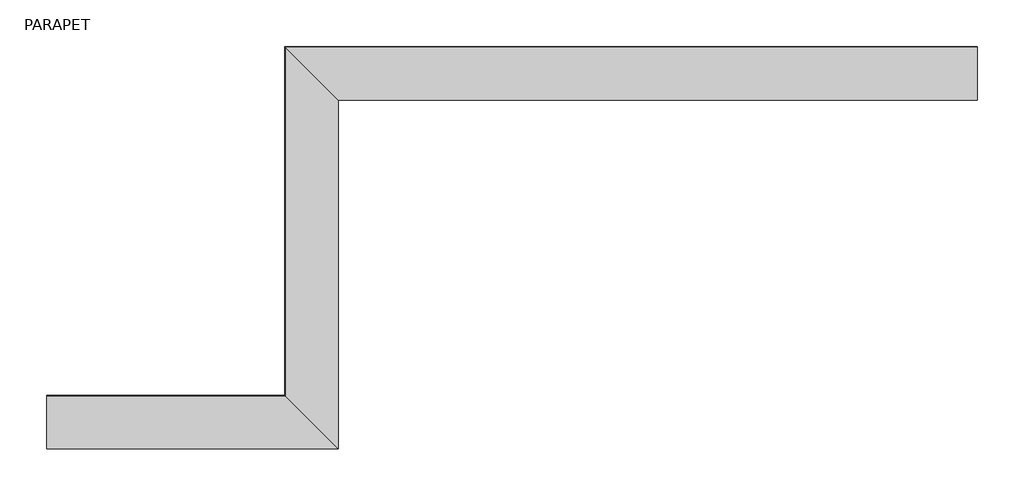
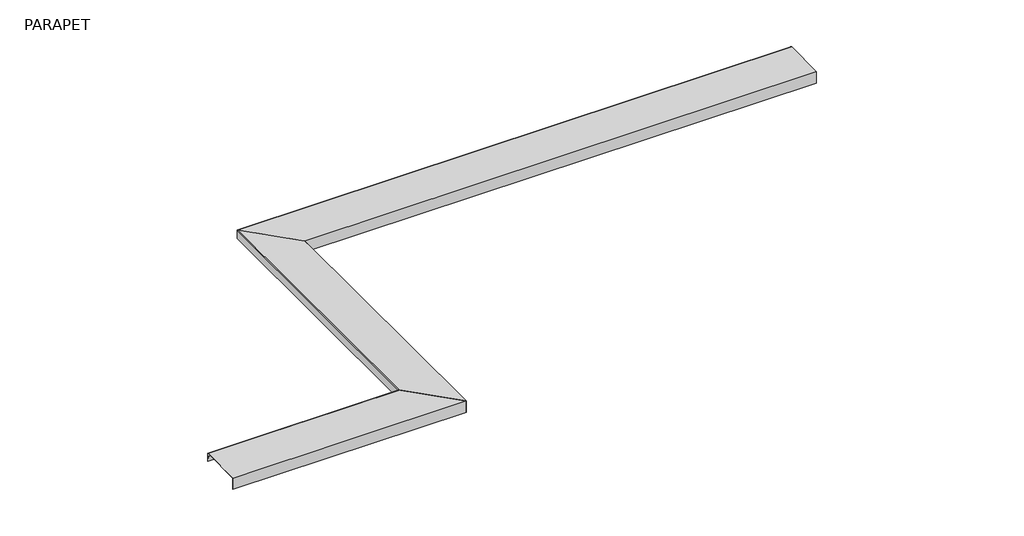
# One storey: 1 proxy.
"""IFC4 building model written with IfcOpenShell, lengths in millimetres."""

from ifc_helpers import new_model, si_unit, frame, origin, place, context, project, spatial, polyline, circle_curve, ellipse_curve, element, save
from ifc_brep_helpers import plane_surface, cylinder_surface, revolved_surface, advanced_brep

model = new_model("IFC4")

# Units and contexts
model_context = context("Model", 3, world=origin())
ifc_project = project(units=[si_unit("LENGTHUNIT", "METRE", prefix="MILLI")], contexts=[model_context])

# Site, building, storey
site = spatial("IfcSite", under=ifc_project)
building = spatial("IfcBuilding", under=site)
storey = spatial("IfcBuildingStorey", under=building, Name="PARAPET", Elevation=38277.5920148)

# Proxy
placement = place(None, origin())
element("IfcBuildingElementProxy", 1, Name="Nineline Parapet Capping 235", ObjectType="Nineline Parapet Capping 235", at=placement, inside=storey, context=model_context, shape_type="AdvancedBrep", body=[
    advanced_brep(
    [(54398.6836337, -3650.6146039, 38279.5924717), (54398.6836337, -3650.6146039, 38232.5920148), (54402.6836337, -3654.6146039, 38265.1694005), (54401.6910875, -3653.6220578, 38265.2912699), (54399.6836337, -3651.6146039, 38248.9418703), (54399.6836337, -3651.6146039, 38279.5924717), (54401.7185385, -3653.6495087, 38281.5921671), (54637.6836337, -3889.6146039, 38277.473381), (54637.6836337, -3889.6146039, 38212.5920148), (54638.6836337, -3890.6146039, 38212.5920148), (54638.6836337, -3890.6146039, 38278.4560783), (54401.7359909, -3653.6669611, 38282.5920148), (57493.6836337, -3650.6146039, 38279.5924717), (57493.6836337, -3653.6669611, 38282.5920148), (57493.6836337, -3890.6146039, 38278.4560783), (57493.6836337, -3890.6146039, 38212.5920148), (57493.6836337, -3889.6146039, 38212.5920148), (57493.6836337, -3889.6146039, 38277.473381), (57493.6836337, -3653.6495087, 38281.5921671), (57493.6836337, -3651.6146039, 38279.5924717), (57493.6836337, -3651.6146039, 38248.9418703), (57493.6836337, -3653.6220578, 38265.2912699), (57493.6836337, -3654.6146039, 38265.1694005), (57493.6836337, -3650.6146039, 38232.5920148)],
    [
        (0, 1),
        (1, 2),
        (2, 3),
        (3, 4),
        (4, 5),
        (5, 6, ellipse_curve(frame((54401.6836337, -3653.6146039, 38279.5924717), z_axis=(0.7071067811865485, 0.7071067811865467, 0.0), x_axis=(0.7071067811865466, -0.7071067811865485, 0.0)), 2.8284271, 2.0)),
        (6, 7),
        (7, 8),
        (8, 9),
        (9, 10),
        (10, 11),
        (11, 0, ellipse_curve(frame((54401.6836337, -3653.6146039, 38279.5924717), z_axis=(-0.7071067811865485, -0.7071067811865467, 0.0), x_axis=(-0.7071067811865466, 0.7071067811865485, 0.0)), 4.2426407, 3.0)),
        (12, 13, circle_curve(frame((57493.6836337, -3653.6146039, 38279.5924717), z_axis=(1.0, 0.0, 0.0), x_axis=(0.0, 1.0, 0.0)), 3.0)),
        (13, 14),
        (14, 15),
        (15, 16),
        (16, 17),
        (17, 18),
        (18, 19, circle_curve(frame((57493.6836337, -3653.6146039, 38279.5924717), z_axis=(-1.0, 0.0, 0.0), x_axis=(0.0, 1.0, 0.0)), 2.0)),
        (19, 20),
        (20, 21),
        (21, 22),
        (22, 23),
        (23, 12),
        (0, 12),
        (23, 1),
        (22, 2),
        (21, 3),
        (20, 4),
        (19, 5),
        (18, 6),
        (17, 7),
        (16, 8),
        (15, 9),
        (14, 10),
        (13, 11),
    ],
    [
        plane_surface(frame((54493.6836337, -3745.6146039, 38582.3920148), z_axis=(-0.7071067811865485, -0.7071067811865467, 0.0), x_axis=(0.7071067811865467, -0.7071067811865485, 0.0))),
        plane_surface(frame((57493.6836337, -3745.6146039, 38118.689529), z_axis=(1.0, 0.0, 0.0), x_axis=(0.0, 1.0, 0.0))),
        plane_surface(frame((54398.6836337, -3650.6146039, 38279.5924717), z_axis=(0.0, 1.0, 0.0), x_axis=(1.0, 0.0, 0.0))),
        plane_surface(frame((54398.6836337, -3650.6146039, 38232.5920148), z_axis=(0.0, -0.9925461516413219, -0.12186934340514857), x_axis=(1.0, 0.0, 0.0))),
        plane_surface(frame((54402.6836337, -3654.6146039, 38265.1694005), z_axis=(0.0, -0.12186934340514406, 0.9925461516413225), x_axis=(1.0, 0.0, 0.0))),
        plane_surface(frame((54401.6910875, -3653.6220578, 38265.2912699), z_axis=(0.0, 0.992546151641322, 0.12186934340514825), x_axis=(1.0, 0.0, 0.0))),
        plane_surface(frame((54399.6836337, -3651.6146039, 38248.9418703), z_axis=(0.0, -1.0, 0.0), x_axis=(1.0, 0.0, 0.0))),
        revolved_surface(polyline([(57493.6836337, -3651.6146039, 38279.5924717), (54399.6836337, -3651.6146039, 38279.5924717)]), (54493.6836337, -3653.6146039, 38279.5924717), (1.0, 0.0, 0.0)),
        plane_surface(frame((54401.7185385, -3653.6495087, 38281.5921671), z_axis=(0.0, 0.017452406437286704, -0.9998476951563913), x_axis=(1.0, 0.0, 0.0))),
        plane_surface(frame((54637.6836337, -3889.6146039, 38277.473381), z_axis=(0.0, 1.0, 0.0), x_axis=(1.0, 0.0, 0.0))),
        plane_surface(frame((54637.6836337, -3889.6146039, 38212.5920148), z_axis=(0.0, 0.0, -1.0), x_axis=(1.0, 0.0, 0.0))),
        plane_surface(frame((54638.6836337, -3890.6146039, 38212.5920148), z_axis=(0.0, -1.0, 0.0), x_axis=(1.0, 0.0, 0.0))),
        plane_surface(frame((54638.6836337, -3890.6146039, 38278.4560783), z_axis=(0.0, -0.017452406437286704, 0.9998476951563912), x_axis=(1.0, 0.0, 0.0))),
        cylinder_surface(frame((54493.6836337, -3653.6146039, 38279.5924717), z_axis=(-1.0, 0.0, 0.0), x_axis=(0.0, 1.0, 0.0)), 3.0),
    ],
    [
        (0, [[1, 2, 3, 4, 5, 6, 7, 8, 9, 10, 11, 12]]),
        (1, [[13, 14, 15, 16, 17, 18, 19, 20, 21, 22, 23, 24]]),
        (2, [[-1, 25, -24, 26]]),
        (3, [[-2, -26, -23, 27]]),
        (4, [[-3, -27, -22, 28]]),
        (5, [[-4, -28, -21, 29]]),
        (6, [[-5, -29, -20, 30]]),
        (7, [[-6, -30, -19, 31]]),
        (8, [[-7, -31, -18, 32]]),
        (9, [[-8, -32, -17, 33]]),
        (10, [[-9, -33, -16, 34]]),
        (11, [[-10, -34, -15, 35]]),
        (12, [[-11, -35, -14, 36]]),
        (13, [[-12, -36, -13, -25]]),
    ],
),
    advanced_brep(
    [(54398.6836337, -3650.6146039, 38279.5924717), (54401.7359909, -3653.6669611, 38282.5920148), (54638.6836337, -3890.6146039, 38278.4560783), (54638.6836337, -3890.6146039, 38212.5920148), (54637.6836337, -3889.6146039, 38212.5920148), (54637.6836337, -3889.6146039, 38277.473381), (54401.7185385, -3653.6495087, 38281.5921671), (54399.6836337, -3651.6146039, 38279.5924717), (54399.6836337, -3651.6146039, 38248.9418703), (54401.6910875, -3653.6220578, 38265.2912699), (54402.6836337, -3654.6146039, 38265.1694005), (54398.6836337, -3650.6146039, 38232.5920148), (54398.6836337, -5210.8489789, 38279.5924717), (54398.6836337, -5210.8489789, 38232.5920148), (54402.6836337, -5214.8489789, 38265.1694005), (54401.6910875, -5213.8564328, 38265.2912699), (54399.6836337, -5211.8489789, 38248.9418703), (54399.6836337, -5211.8489789, 38279.5924717), (54401.7185385, -5213.8838837, 38281.5921671), (54637.6836337, -5449.8489789, 38277.473381), (54637.6836337, -5449.8489789, 38212.5920148), (54638.6836337, -5450.8489789, 38212.5920148), (54638.6836337, -5450.8489789, 38278.4560783), (54401.7359909, -5213.9013361, 38282.5920148)],
    [
        (0, 1, ellipse_curve(frame((54401.6836337, -3653.6146039, 38279.5924717), z_axis=(0.7071067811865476, 0.7071067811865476, 0.0), x_axis=(-0.7071067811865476, 0.7071067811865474, 0.0)), 4.2426407, 3.0)),
        (1, 2),
        (2, 3),
        (3, 4),
        (4, 5),
        (5, 6),
        (6, 7, ellipse_curve(frame((54401.6836337, -3653.6146039, 38279.5924717), z_axis=(-0.7071067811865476, -0.7071067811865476, 0.0), x_axis=(0.7071067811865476, -0.7071067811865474, 0.0)), 2.8284271, 2.0)),
        (7, 8),
        (8, 9),
        (9, 10),
        (10, 11),
        (11, 0),
        (12, 13),
        (13, 14),
        (14, 15),
        (15, 16),
        (16, 17),
        (17, 18, ellipse_curve(frame((54401.6836337, -5213.8489789, 38279.5924717), z_axis=(0.7071067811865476, 0.7071067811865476, 0.0), x_axis=(0.7071067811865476, -0.7071067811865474, 0.0)), 2.8284271, 2.0)),
        (18, 19),
        (19, 20),
        (20, 21),
        (21, 22),
        (22, 23),
        (23, 12, ellipse_curve(frame((54401.6836337, -5213.8489789, 38279.5924717), z_axis=(-0.7071067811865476, -0.7071067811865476, 0.0), x_axis=(-0.7071067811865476, 0.7071067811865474, 0.0)), 4.2426407, 3.0)),
        (0, 12),
        (23, 1),
        (22, 2),
        (21, 3),
        (20, 4),
        (19, 5),
        (18, 6),
        (17, 7),
        (16, 8),
        (15, 9),
        (14, 10),
        (13, 11),
    ],
    [
        plane_surface(frame((54493.6836337, -3745.6146039, 37972.7920148), z_axis=(0.7071067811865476, 0.7071067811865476, 0.0), x_axis=(0.7071067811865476, -0.7071067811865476, 0.0))),
        plane_surface(frame((54493.6836337, -5305.8489789, 38582.3920148), z_axis=(-0.7071067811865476, -0.7071067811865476, 0.0), x_axis=(-0.7071067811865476, 0.7071067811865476, 0.0))),
        cylinder_surface(frame((54401.6836337, -3745.6146039, 38279.5924717), z_axis=(0.0, 1.0, 0.0), x_axis=(-1.0, 0.0, 0.0)), 3.0),
        plane_surface(frame((54401.7359909, -3653.6669611, 38282.5920148), z_axis=(0.017452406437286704, 0.0, 0.9998476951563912), x_axis=(0.0, -1.0, 0.0))),
        plane_surface(frame((54638.6836337, -3890.6146039, 38278.4560783), z_axis=(1.0, 0.0, 0.0), x_axis=(0.0, -1.0, 0.0))),
        plane_surface(frame((54638.6836337, -3890.6146039, 38212.5920148), z_axis=(0.0, 0.0, -1.0), x_axis=(0.0, -1.0, 0.0))),
        plane_surface(frame((54637.6836337, -3889.6146039, 38212.5920148), z_axis=(-1.0, 0.0, 0.0), x_axis=(0.0, -1.0, 0.0))),
        plane_surface(frame((54637.6836337, -3889.6146039, 38277.473381), z_axis=(-0.017452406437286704, 0.0, -0.9998476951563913), x_axis=(0.0, -1.0, 0.0))),
        revolved_surface(polyline([(54399.6836337, -5215.848978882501, 38279.5924717), (54399.6836337, -3651.6146039, 38279.5924717)]), (54401.6836337, -3745.6146039, 38279.5924717), (0.0, -1.0, 0.0)),
        plane_surface(frame((54399.6836337, -3651.6146039, 38279.5924717), z_axis=(1.0, 0.0, 0.0), x_axis=(0.0, -1.0, 0.0))),
        plane_surface(frame((54399.6836337, -3651.6146039, 38248.9418703), z_axis=(-0.992546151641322, 0.0, 0.12186934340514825), x_axis=(0.0, -1.0, 0.0))),
        plane_surface(frame((54401.6910875, -3653.6220578, 38265.2912699), z_axis=(0.12186934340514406, 0.0, 0.9925461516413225), x_axis=(0.0, -1.0, 0.0))),
        plane_surface(frame((54402.6836337, -3654.6146039, 38265.1694005), z_axis=(0.9925461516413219, 0.0, -0.12186934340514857), x_axis=(0.0, -1.0, 0.0))),
        plane_surface(frame((54398.6836337, -3650.6146039, 38232.5920148), z_axis=(-1.0, 0.0, 0.0), x_axis=(0.0, -1.0, 0.0))),
    ],
    [
        (0, [[1, 2, 3, 4, 5, 6, 7, 8, 9, 10, 11, 12]]),
        (1, [[13, 14, 15, 16, 17, 18, 19, 20, 21, 22, 23, 24]]),
        (2, [[-1, 25, -24, 26]]),
        (3, [[-2, -26, -23, 27]]),
        (4, [[-3, -27, -22, 28]]),
        (5, [[-4, -28, -21, 29]]),
        (6, [[-5, -29, -20, 30]]),
        (7, [[-6, -30, -19, 31]]),
        (8, [[-7, -31, -18, 32]]),
        (9, [[-8, -32, -17, 33]]),
        (10, [[-9, -33, -16, 34]]),
        (11, [[-10, -34, -15, 35]]),
        (12, [[-11, -35, -14, 36]]),
        (13, [[-12, -36, -13, -25]]),
    ],
),
    advanced_brep(
    [(54398.6836337, -5210.8489789, 38279.5924717), (54401.7359909, -5213.9013361, 38282.5920148), (54638.6836337, -5450.8489789, 38278.4560783), (54638.6836337, -5450.8489789, 38212.5920148), (54637.6836337, -5449.8489789, 38212.5920148), (54637.6836337, -5449.8489789, 38277.473381), (54401.7185385, -5213.8838837, 38281.5921671), (54399.6836337, -5211.8489789, 38279.5924717), (54399.6836337, -5211.8489789, 38248.9418703), (54401.6910875, -5213.8564328, 38265.2912699), (54402.6836337, -5214.8489789, 38265.1694005), (54398.6836337, -5210.8489789, 38232.5920148), (53334.6836337, -5210.8489789, 38279.5924717), (53334.6836337, -5210.8489789, 38232.5920148), (53334.6836337, -5214.8489789, 38265.1694005), (53334.6836337, -5213.8564328, 38265.2912699), (53334.6836337, -5211.8489789, 38248.9418703), (53334.6836337, -5211.8489789, 38279.5924717), (53334.6836337, -5213.8838837, 38281.5921671), (53334.6836337, -5449.8489789, 38277.473381), (53334.6836337, -5449.8489789, 38212.5920148), (53334.6836337, -5450.8489789, 38212.5920148), (53334.6836337, -5450.8489789, 38278.4560783), (53334.6836337, -5213.9013361, 38282.5920148)],
    [
        (0, 1, ellipse_curve(frame((54401.6836337, -5213.8489789, 38279.5924717), z_axis=(0.7071067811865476, 0.7071067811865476, 0.0), x_axis=(0.7071067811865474, -0.7071067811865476, 0.0)), 4.2426407, 3.0)),
        (1, 2),
        (2, 3),
        (3, 4),
        (4, 5),
        (5, 6),
        (6, 7, ellipse_curve(frame((54401.6836337, -5213.8489789, 38279.5924717), z_axis=(-0.7071067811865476, -0.7071067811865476, 0.0), x_axis=(-0.7071067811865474, 0.7071067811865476, 0.0)), 2.8284271, 2.0)),
        (7, 8),
        (8, 9),
        (9, 10),
        (10, 11),
        (11, 0),
        (12, 13),
        (13, 14),
        (14, 15),
        (15, 16),
        (16, 17),
        (17, 18, circle_curve(frame((53334.6836337, -5213.8489789, 38279.5924717), z_axis=(1.0, 0.0, 0.0), x_axis=(0.0, 1.0, 0.0)), 2.0)),
        (18, 19),
        (19, 20),
        (20, 21),
        (21, 22),
        (22, 23),
        (23, 12, circle_curve(frame((53334.6836337, -5213.8489789, 38279.5924717), z_axis=(-1.0, 0.0, 0.0), x_axis=(0.0, 1.0, 0.0)), 3.0)),
        (0, 12),
        (23, 1),
        (22, 2),
        (21, 3),
        (20, 4),
        (19, 5),
        (18, 6),
        (17, 7),
        (16, 8),
        (15, 9),
        (14, 10),
        (13, 11),
    ],
    [
        plane_surface(frame((54493.6836337, -5305.8489789, 38582.3920148), z_axis=(0.7071067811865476, 0.7071067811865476, 0.0), x_axis=(-0.7071067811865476, 0.7071067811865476, 0.0))),
        plane_surface(frame((53334.6836337, -5305.8489789, 38118.689529), z_axis=(-1.0, 0.0, 0.0), x_axis=(0.0, -1.0, 0.0))),
        cylinder_surface(frame((54493.6836337, -5213.8489789, 38279.5924717), z_axis=(1.0, 0.0, 0.0), x_axis=(0.0, 1.0, 0.0)), 3.0),
        plane_surface(frame((54401.7359909, -5213.9013361, 38282.5920148), z_axis=(0.0, -0.017452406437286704, 0.9998476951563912), x_axis=(-1.0, 0.0, 0.0))),
        plane_surface(frame((54638.6836337, -5450.8489789, 38278.4560783), z_axis=(0.0, -1.0, 0.0), x_axis=(-1.0, 0.0, 0.0))),
        plane_surface(frame((54638.6836337, -5450.8489789, 38212.5920148), z_axis=(0.0, 0.0, -1.0), x_axis=(-1.0, 0.0, 0.0))),
        plane_surface(frame((54637.6836337, -5449.8489789, 38212.5920148), z_axis=(0.0, 1.0, 0.0), x_axis=(-1.0, 0.0, 0.0))),
        plane_surface(frame((54637.6836337, -5449.8489789, 38277.473381), z_axis=(0.0, 0.017452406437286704, -0.9998476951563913), x_axis=(-1.0, 0.0, 0.0))),
        revolved_surface(polyline([(53334.6836337, -5211.8489789, 38279.5924717), (54403.6836336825, -5211.8489789, 38279.5924717)]), (54493.6836337, -5213.8489789, 38279.5924717), (-1.0, 0.0, 0.0)),
        plane_surface(frame((54399.6836337, -5211.8489789, 38279.5924717), z_axis=(0.0, -1.0, 0.0), x_axis=(-1.0, 0.0, 0.0))),
        plane_surface(frame((54399.6836337, -5211.8489789, 38248.9418703), z_axis=(0.0, 0.992546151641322, 0.12186934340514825), x_axis=(-1.0, 0.0, 0.0))),
        plane_surface(frame((54401.6910875, -5213.8564328, 38265.2912699), z_axis=(0.0, -0.12186934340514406, 0.9925461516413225), x_axis=(-1.0, 0.0, 0.0))),
        plane_surface(frame((54402.6836337, -5214.8489789, 38265.1694005), z_axis=(0.0, -0.9925461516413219, -0.12186934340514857), x_axis=(-1.0, 0.0, 0.0))),
        plane_surface(frame((54398.6836337, -5210.8489789, 38232.5920148), z_axis=(0.0, 1.0, 0.0), x_axis=(-1.0, 0.0, 0.0))),
    ],
    [
        (0, [[1, 2, 3, 4, 5, 6, 7, 8, 9, 10, 11, 12]]),
        (1, [[13, 14, 15, 16, 17, 18, 19, 20, 21, 22, 23, 24]]),
        (2, [[-1, 25, -24, 26]]),
        (3, [[-2, -26, -23, 27]]),
        (4, [[-3, -27, -22, 28]]),
        (5, [[-4, -28, -21, 29]]),
        (6, [[-5, -29, -20, 30]]),
        (7, [[-6, -30, -19, 31]]),
        (8, [[-7, -31, -18, 32]]),
        (9, [[-8, -32, -17, 33]]),
        (10, [[-9, -33, -16, 34]]),
        (11, [[-10, -34, -15, 35]]),
        (12, [[-11, -35, -14, 36]]),
        (13, [[-12, -36, -13, -25]]),
    ],
),
])

save(model, "model.ifc")
